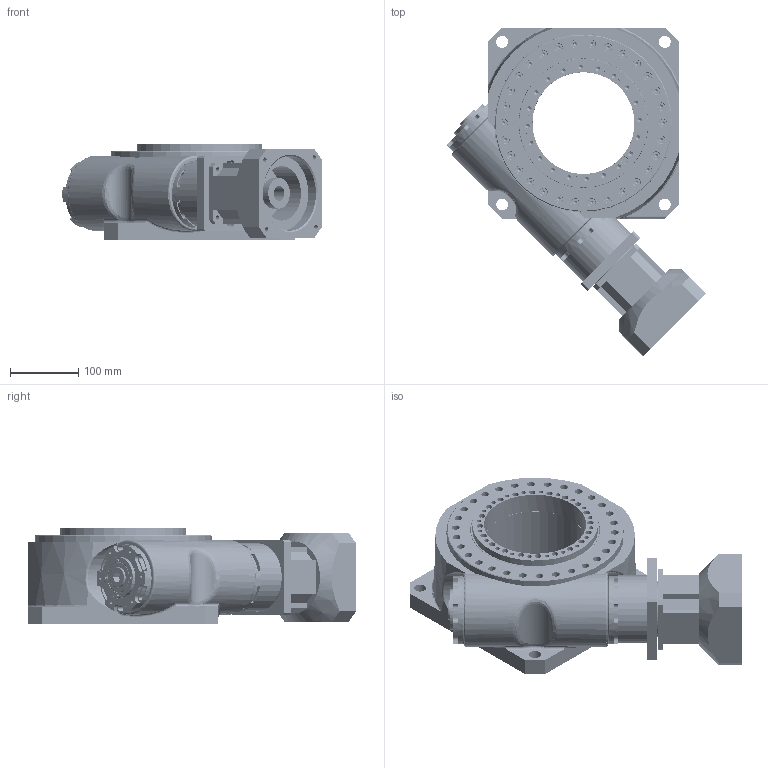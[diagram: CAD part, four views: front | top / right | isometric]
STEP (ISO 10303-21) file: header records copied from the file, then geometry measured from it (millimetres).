
FILE_DESCRIPTION((''),'2;1');
FILE_NAME('170R_ASM','2019-12-14T',('Administrator'),(''),'PRO/ENGINEER BY PARAMETRIC TECHNOLOGY CORPORATION, 2010280','PRO/ENGINEER BY PARAMETRIC TECHNOLOGY CORPORATION, 2010280','');
FILE_SCHEMA(('CONFIG_CONTROL_DESIGN'));
Products named in the file (26): XIANGTI; 03_; RB17020; NT280_B___Y-1-SOLID1; NT280_X_O_B4435-1-SOLID1; TC185-210-13; 09; 10; ZCZ_ASM; 04_; 6820-100X125X13; DUANGAI; TC100X125X10; TC34X7; YOU20-30-7; 32906-30X47X12; 33005-25X47X17; DIANJIZUO; HCZT170L-03-04; M6X12; HC4024-02-11_GUNLUNZHOU; HC4024-02-10_GUNLUN; GL22_ASM; HB090-007-S2-P0; B090; 170R_ASM
Assembly tree (50 placements, depth 3):
  170R_ASM
    XIANGTI
    03_
    RB17020
    NT280_B___Y-1-SOLID1
    NT280_X_O_B4435-1-SOLID1
    TC185-210-13
    ZCZ_ASM  x2
      09
      10
    04_
    6820-100X125X13
    DUANGAI
    TC100X125X10
    TC34X7
    YOU20-30-7
    32906-30X47X12
    33005-25X47X17
    DIANJIZUO
    HCZT170L-03-04
    M6X12  x2
    GL22_ASM  x24
      HC4024-02-11_GUNLUNZHOU
      HC4024-02-10_GUNLUN
    HB090-007-S2-P0
    B090
Bounding box: 381.13 x 482.24 x 140 mm (x, y, z)
Volume: 7378790.8 mm3; surface area: 1377253.4 mm2
Topology: 72 solids, 72 shells, 3253 faces, 7698 edges, 4705 vertices
Faces by surface type: cylinder 1619, plane 779, cone 489, torus 305, bspline 51, sphere 6, revolution 4
Entity records: 67982 total; most frequent: CARTESIAN_POINT 18900, DIRECTION 10713, ORIENTED_EDGE 9722, EDGE_CURVE 4861, AXIS2_PLACEMENT_3D 4444, VERTEX_POINT 3096, EDGE_LOOP 2521, CIRCLE 2414
